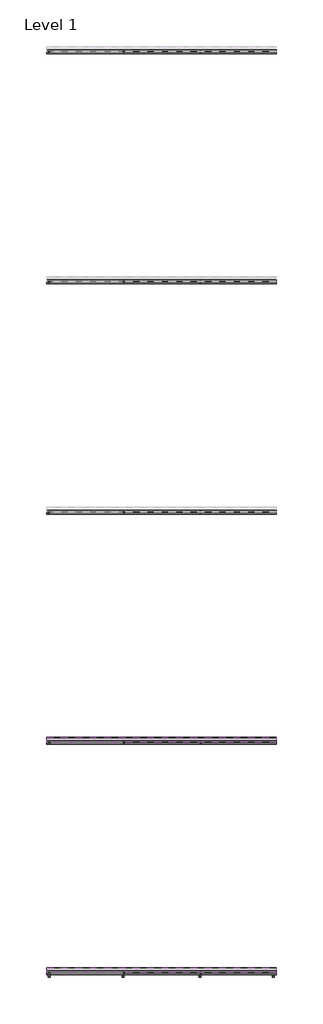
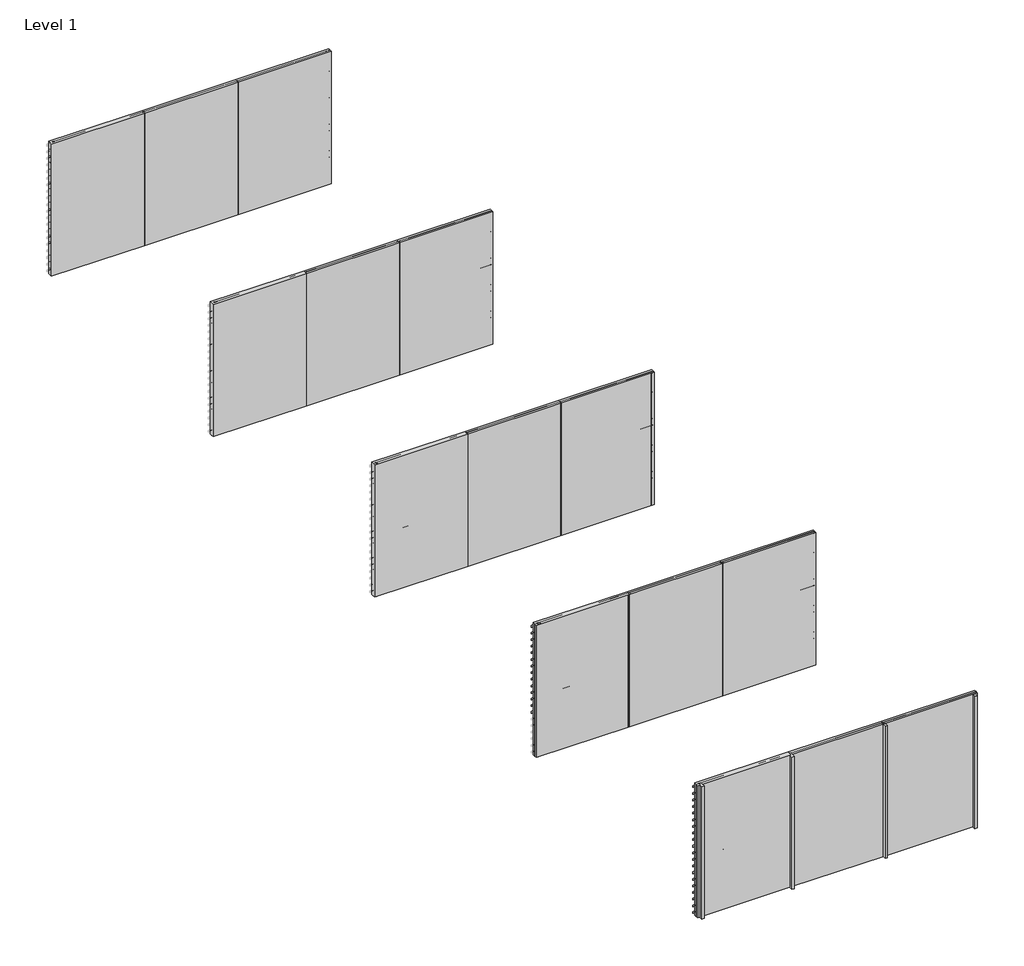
# One storey, part 1 of 2: 34 proxies, 20 members, 20 plates.
"""IFC4 building model written with IfcOpenShell, lengths in millimetres."""

import ifcopenshell
import ifcopenshell.guid

model = None  # the IFC model being written
_history = None  # IfcOwnerHistory: only IFC2X3 demands one
_inside = {}  # id of a spatial element -> (the spatial element, [elements in it])
_under = {}  # id of a project, library or spatial element -> (it, [spatial elements below it])
_declared = {}  # id of a project -> (the project, [libraries it declares])
_typed = {}  # id of a type object -> (the type object, [elements of that type])
_made_of = {}  # id of a material, layer set ... -> (it, [elements and type objects made of it])


def new_model(schema):
    """Start an empty IFC model of exactly this schema.

    Asked for "IFC4X3", IfcOpenShell would pick the latest addendum, in which some entities
    have other attributes; the version numbers below select the first issue.
    IFC2X3 requires an IfcOwnerHistory on every rooted entity: one is made here for all.
    """
    global model, _history
    if schema == "IFC4X3":
        model = ifcopenshell.file(schema_version=(4, 3, 0, 0))
    else:
        model = ifcopenshell.file(schema=schema)
    _inside.clear()
    _under.clear()
    _declared.clear()
    _typed.clear()
    _made_of.clear()
    _history = None
    if model.schema == "IFC2X3":
        org = make("IfcOrganization", Name="unknown")
        user = make(
            "IfcPersonAndOrganization",
            ThePerson=make("IfcPerson", FamilyName="unknown"),
            TheOrganization=org,
        )
        app = make(
            "IfcApplication",
            ApplicationDeveloper=org,
            Version="unknown",
            ApplicationFullName="unknown",
            ApplicationIdentifier="unknown",
        )
        _history = make(
            "IfcOwnerHistory",
            OwningUser=user,
            OwningApplication=app,
            ChangeAction="ADDED",
            CreationDate=0,
        )
    return model


def make(cls, **values):
    """One entity of the class cls with the attributes given. An attribute that is None is left unset."""
    return model.create_entity(
        cls, **{name: value for name, value in values.items() if value is not None}
    )


def rooted(cls, **values):
    """An entity with a GlobalId (a new one), such as an element, a storey or a relation."""
    return make(cls, GlobalId=ifcopenshell.guid.new(), OwnerHistory=_history, **values)


def si_unit(unit_type, name, prefix=None):
    """IfcSIUnit, for example si_unit("LENGTHUNIT", "METRE", prefix="MILLI")."""
    return make("IfcSIUnit", UnitType=unit_type, Prefix=prefix, Name=name)


def assignment(units):
    """IfcUnitAssignment: the units of a project."""
    return None if units is None else make("IfcUnitAssignment", Units=units)


def point(xyz):
    """IfcCartesianPoint."""
    return None if xyz is None else make("IfcCartesianPoint", Coordinates=xyz)


def direction(xyz):
    """IfcDirection."""
    return None if xyz is None else make("IfcDirection", DirectionRatios=xyz)


def frame(location, z_axis=None, x_axis=None):
    """IfcAxis2Placement3D, a coordinate frame: its origin and axes. An axis left out is left unset."""
    return make(
        "IfcAxis2Placement3D",
        Location=point(location),
        Axis=direction(z_axis),
        RefDirection=direction(x_axis),
    )


def origin():
    """The frame at (0, 0, 0) with its axes left unset."""
    return frame((0.0, 0.0, 0.0))


def origin_with_axes():
    """The frame at (0, 0, 0) with the z axis (0, 0, 1) and the x axis (1, 0, 0) written out."""
    return frame((0.0, 0.0, 0.0), z_axis=(0.0, 0.0, 1.0), x_axis=(1.0, 0.0, 0.0))


def place(relative_to, where):
    """IfcLocalPlacement: puts the frame where relative to a parent placement (None: the world)."""
    return make(
        "IfcLocalPlacement", PlacementRelTo=relative_to, RelativePlacement=where
    )


def context(
    kind, dimensions, precision=None, world=None, true_north=None, identifier=None
):
    """IfcGeometricRepresentationContext, for example the 3D "Model" context."""
    return make(
        "IfcGeometricRepresentationContext",
        ContextIdentifier=identifier,
        ContextType=kind,
        CoordinateSpaceDimension=dimensions,
        Precision=precision,
        WorldCoordinateSystem=world,
        TrueNorth=true_north,
    )


def project(units=None, contexts=None):
    """IfcProject with its units and contexts."""
    return rooted(
        "IfcProject",
        Name="project",
        RepresentationContexts=contexts,
        UnitsInContext=assignment(units),
    )


def spatial(cls, under=None, at=None, **own):
    """A site, building, storey or space (cls), placed at a placement, below another one or the project."""
    s = rooted(cls, ObjectPlacement=at, **own)
    if under is not None:
        _under.setdefault(under.id(), (under, []))[1].append(s)
    return s


def polyline(points):
    """IfcPolyline through the points."""
    return make("IfcPolyline", Points=[point(p) for p in points])


def outline(outer, holes=None, kind="AREA"):
    """IfcArbitraryClosedProfileDef: a profile drawn as a closed curve; with holes, ...WithVoids."""
    if holes is None:
        return make("IfcArbitraryClosedProfileDef", ProfileType=kind, OuterCurve=outer)
    return make(
        "IfcArbitraryProfileDefWithVoids",
        ProfileType=kind,
        OuterCurve=outer,
        InnerCurves=holes,
    )


def extrude(swept, where, along, depth):
    """IfcExtrudedAreaSolid: the profile swept, set in the frame where, extruded along a direction by depth."""
    return make(
        "IfcExtrudedAreaSolid",
        SweptArea=swept,
        Position=where,
        ExtrudedDirection=direction(along),
        Depth=depth,
    )


def shape(context_of_items, identifier, shape_type, items):
    """IfcShapeRepresentation: the items that make up one representation, for example the "Body"."""
    return make(
        "IfcShapeRepresentation",
        ContextOfItems=context_of_items,
        RepresentationIdentifier=identifier,
        RepresentationType=shape_type,
        Items=items,
    )


def source(mapping_origin, context_of_items, identifier, shape_type, items):
    """IfcRepresentationMap: a shape defined once, which mapped items show again and again."""
    return make(
        "IfcRepresentationMap",
        MappingOrigin=mapping_origin,
        MappedRepresentation=shape(context_of_items, identifier, shape_type, items),
    )


def transform(
    local_origin,
    x_axis=None,
    y_axis=None,
    z_axis=None,
    scale=None,
    scale2=None,
    scale3=None,
    uniform=True,
):
    """IfcCartesianTransformationOperator3D, or its non-uniform kind. x_axis, y_axis, z_axis: its Axis1, 2, 3."""
    if uniform:
        return make(
            "IfcCartesianTransformationOperator3D",
            Axis1=direction(x_axis),
            Axis2=direction(y_axis),
            LocalOrigin=point(local_origin),
            Scale=scale,
            Axis3=direction(z_axis),
        )
    return make(
        "IfcCartesianTransformationOperator3DnonUniform",
        Axis1=direction(x_axis),
        Axis2=direction(y_axis),
        LocalOrigin=point(local_origin),
        Scale=scale,
        Axis3=direction(z_axis),
        Scale2=scale2,
        Scale3=scale3,
    )


def mapped(mapping_source, mapping_target):
    """IfcMappedItem: shows the shape of a source again, moved by a transform."""
    return make(
        "IfcMappedItem", MappingSource=mapping_source, MappingTarget=mapping_target
    )


def made_of(thing, what):
    """Note that an element or type object is made of a material, layer set ...; save() writes the relation."""
    if what is not None:
        _made_of.setdefault(what.id(), (what, []))[1].append(thing)
    return thing


def element(
    cls,
    number,
    at=None,
    inside=None,
    cuts=None,
    type_object=None,
    material=None,
    context=None,
    identifier="Body",
    shape_type=None,
    held_by="IfcProductDefinitionShape",
    body=None,
    shapes=None,
    **own,
):
    """One element of the class cls, such as IfcWall. Its Tag is "e" and its number.

    at: its placement. inside: the storey or other place that contains it. cuts: it is an
    opening in that element (IfcRelVoidsElement). A single representation is given by context,
    identifier, shape_type and body (its items); several are given by shapes. held_by: the class
    of the entity that holds the representations. save() writes the other relations.
    """
    e = rooted(cls, Tag="e%d" % number, ObjectPlacement=at, **own)
    if body is not None:
        shapes = [shape(context, identifier, shape_type, body)]
    if shapes is not None:
        e.Representation = make(held_by, Representations=shapes)
    if inside is not None:
        _inside.setdefault(inside.id(), (inside, []))[1].append(e)
    if cuts is not None:
        rooted(
            "IfcRelVoidsElement", RelatingBuildingElement=cuts, RelatedOpeningElement=e
        )
    if type_object is not None:
        _typed.setdefault(type_object.id(), (type_object, []))[1].append(e)
    return made_of(e, material)


def aggregate(whole, parts):
    """IfcRelAggregates: a whole, such as a stair, and the parts it consists of."""
    return rooted("IfcRelAggregates", RelatingObject=whole, RelatedObjects=parts)


def save(model, path):
    """Write the relations noted so far, then the file.

    IfcRelAggregates (storeys below a building ...), IfcRelContainedInSpatialStructure (elements
    in a storey), IfcRelDefinesByType, IfcRelAssociatesMaterial and IfcRelDeclares: one each for
    every whole, place, type object, material and project.
    """
    for whole, parts in _under.values():
        aggregate(whole, parts)
    for where, things in _inside.values():
        rooted(
            "IfcRelContainedInSpatialStructure",
            RelatedElements=things,
            RelatingStructure=where,
        )
    for kind, things in _typed.values():
        rooted("IfcRelDefinesByType", RelatedObjects=things, RelatingType=kind)
    for what, things in _made_of.values():
        rooted("IfcRelAssociatesMaterial", RelatedObjects=things, RelatingMaterial=what)
    for by, libraries in _declared.values():
        rooted("IfcRelDeclares", RelatingContext=by, RelatedDefinitions=libraries)
    model.write(path)


def rectangular_mullion_07ce7cd6(model_context):
    return source(origin(), model_context, "Body", "SweptSolid", [
        extrude(outline(polyline([(-50.0, 1.0), (-50.0, -11.0), (-80.0, -11.0), (-80.0, 1.0), (-50.0, 1.0)])), frame((0.0, 0.0, -3000.0), z_axis=(0.0, 0.0, 1.0), x_axis=(1.0, 0.0, 0.0)), (0.0, 0.0, 1.0), 3000.0),
    ])


def rectangular_mullion_a32b29a9(model_context):
    return source(origin(), model_context, "Body", "SweptSolid", [
        extrude(outline(polyline([(-80.0, 1.0), (-50.0, 1.0), (-50.0, -11.0), (-80.0, -11.0), (-80.0, 1.0)])), frame((0.0, 0.0, -3000.0), z_axis=(0.0, 0.0, 1.0), x_axis=(1.0, 0.0, 0.0)), (0.0, 0.0, 1.0), 3000.0),
    ])


def rectangular_mullion_bbbcbd30(model_context):
    return source(origin(), model_context, "Body", "SweptSolid", [
        extrude(outline(polyline([(-50.0, 1.0), (-50.0, -11.0), (-100.0, -11.0), (-100.0, 1.0), (-50.0, 1.0)])), frame((0.0, 0.0, -3000.0), z_axis=(0.0, 0.0, 1.0), x_axis=(1.0, 0.0, 0.0)), (0.0, 0.0, 1.0), 3000.0),
    ])


def rectangular_mullion_f8d4a220(model_context):
    return source(origin(), model_context, "Body", "SweptSolid", [
        extrude(outline(polyline([(-100.0, 1.0), (-50.0, 1.0), (-50.0, -11.0), (-100.0, -11.0), (-100.0, 1.0)])), frame((0.0, 0.0, -3000.0), z_axis=(0.0, 0.0, 1.0), x_axis=(1.0, 0.0, 0.0)), (0.0, 0.0, 1.0), 3000.0),
    ])


def rectangular_mullion_81aaf6fe(model_context):
    return source(origin(), model_context, "Body", "SweptSolid", [
        extrude(outline(polyline([(-50.0, 1.0), (-50.0, -49.0), (-71.0, -49.0), (-71.0, 1.0), (-50.0, 1.0)])), frame((0.0, 0.0, -3000.0), z_axis=(0.0, 0.0, 1.0), x_axis=(1.0, 0.0, 0.0)), (0.0, 0.0, 1.0), 3000.0),
    ])


def rectangular_mullion_6e08dc26(model_context):
    return source(origin(), model_context, "Body", "SweptSolid", [
        extrude(outline(polyline([(-71.0, 1.0), (-50.0, 1.0), (-50.0, -49.0), (-71.0, -49.0), (-71.0, 1.0)])), frame((0.0, 0.0, -3000.0), z_axis=(0.0, 0.0, 1.0), x_axis=(1.0, 0.0, 0.0)), (0.0, 0.0, 1.0), 3000.0),
    ])


def rectangular_mullion_75c52e10(model_context):
    return source(origin(), model_context, "Body", "SweptSolid", [
        extrude(outline(polyline([(-50.0, 1.0), (-50.0, -49.0), (-100.0, -49.0), (-100.0, 1.0), (-50.0, 1.0)])), frame((0.0, 0.0, -3000.0), z_axis=(0.0, 0.0, 1.0), x_axis=(1.0, 0.0, 0.0)), (0.0, 0.0, 1.0), 3000.0),
    ])


def rectangular_mullion_40295cf1(model_context):
    return source(origin(), model_context, "Body", "SweptSolid", [
        extrude(outline(polyline([(-100.0, 1.0), (-50.0, 1.0), (-50.0, -49.0), (-100.0, -49.0), (-100.0, 1.0)])), frame((0.0, 0.0, -3000.0), z_axis=(0.0, 0.0, 1.0), x_axis=(1.0, 0.0, 0.0)), (0.0, 0.0, 1.0), 3000.0),
    ])


def rectangular_mullion_8b624eba(model_context):
    return source(origin(), model_context, "Body", "SweptSolid", [
        extrude(outline(polyline([(15.0, 1.0), (15.0, -11.0), (-15.0, -11.0), (-15.0, 1.0), (15.0, 1.0)])), frame((0.0, 0.0, -3000.0), z_axis=(0.0, 0.0, 1.0), x_axis=(1.0, 0.0, 0.0)), (0.0, 0.0, 1.0), 3000.0),
    ])


def rectangular_mullion_7f158cb3(model_context):
    return source(origin(), model_context, "Body", "SweptSolid", [
        extrude(outline(polyline([(25.0, 1.0), (25.0, -11.0), (-25.0, -11.0), (-25.0, 1.0), (25.0, 1.0)])), frame((0.0, 0.0, -3000.0), z_axis=(0.0, 0.0, 1.0), x_axis=(1.0, 0.0, 0.0)), (0.0, 0.0, 1.0), 3000.0),
    ])


def rectangular_mullion_66519e13(model_context):
    return source(origin(), model_context, "Body", "SweptSolid", [
        extrude(outline(polyline([(10.5, 1.0), (10.5, -49.0), (-10.5, -49.0), (-10.5, 1.0), (10.5, 1.0)])), frame((0.0, 0.0, -3000.0), z_axis=(0.0, 0.0, 1.0), x_axis=(1.0, 0.0, 0.0)), (0.0, 0.0, 1.0), 3000.0),
    ])


def rectangular_mullion_5829b51c(model_context):
    return source(origin(), model_context, "Body", "SweptSolid", [
        extrude(outline(polyline([(25.0, 1.0), (25.0, -49.0), (-25.0, -49.0), (-25.0, 1.0), (25.0, 1.0)])), frame((0.0, 0.0, -3000.0), z_axis=(0.0, 0.0, 1.0), x_axis=(1.0, 0.0, 0.0)), (0.0, 0.0, 1.0), 3000.0),
    ])


def rectangular_mullion_16d87653(model_context):
    return source(origin(), model_context, "Body", "SweptSolid", [
        extrude(outline(polyline([(25.0, 1.0), (25.0, -124.0), (-25.0, -124.0), (-25.0, 1.0), (25.0, 1.0)])), frame((0.0, 0.0, -3000.0), z_axis=(0.0, 0.0, 1.0), x_axis=(1.0, 0.0, 0.0)), (0.0, 0.0, 1.0), 3000.0),
    ])


def rectangular_mullion_6cfc0fe8(model_context):
    return source(origin(), model_context, "Body", "SweptSolid", [
        extrude(outline(polyline([(-50.0, 1.0), (-50.0, -124.0), (-100.0, -124.0), (-100.0, 1.0), (-50.0, 1.0)])), frame((0.0, 0.0, -3000.0), z_axis=(0.0, 0.0, 1.0), x_axis=(1.0, 0.0, 0.0)), (0.0, 0.0, 1.0), 3000.0),
    ])


def rectangular_mullion_5af3f62c(model_context):
    return source(origin(), model_context, "Body", "SweptSolid", [
        extrude(outline(polyline([(-100.0, 1.0), (-50.0, 1.0), (-50.0, -124.0), (-100.0, -124.0), (-100.0, 1.0)])), frame((0.0, 0.0, -3000.0), z_axis=(0.0, 0.0, 1.0), x_axis=(1.0, 0.0, 0.0)), (0.0, 0.0, 1.0), 3000.0),
    ])


def empty_system_panel_empty_24b1c33f(model_context):
    return source(origin(), model_context, "Body", "SweptSolid", [
        extrude(outline(polyline([(1000.0, -50.0), (-1000.0, -50.0), (-1000.0, 50.0), (1000.0, 50.0), (1000.0, -50.0)])), origin_with_axes(), (0.0, 0.0, 1.0), 3000.0),
    ])


model = new_model("IFC4")

# Units and contexts
model_context = context("Model", 3, world=origin())
ifc_project = project(units=[si_unit("LENGTHUNIT", "METRE", prefix="MILLI")], contexts=[model_context])

# Site, building, storey
site = spatial("IfcSite", under=ifc_project)
building = spatial("IfcBuilding", under=site)
storey = spatial("IfcBuildingStorey", under=building, Name="Level 1", Elevation=0.0)

# Proxies
placement = place(None, origin())
element("IfcBuildingElementProxy", 1, Name="Wall Sweeps", at=placement, inside=storey, context=model_context, shape_type="SweptSolid", body=[
    extrude(outline(polyline([(-19995.0, 3000.0), (-19995.0, 2998.0), (-19867.0, 2880.0), (-19867.0, 2845.0), (-19997.0, 2964.84375), (-19997.0, 3000.0), (-19995.0, 3000.0)])), frame((0.0, 0.0, 0.0), z_axis=(1.0, 0.0, 0.0), x_axis=(0.0, 1.0, 0.0)), (0.0, 0.0, 1.0), 6000.0),
])
element("IfcBuildingElementProxy", 2, Name="Wall Sweeps", at=placement, inside=storey, context=model_context, shape_type="SweptSolid", body=[
    extrude(outline(polyline([(-19995.0, 2850.0), (-19995.0, 2848.0), (-19867.0, 2730.0), (-19867.0, 2695.0), (-19997.0, 2814.84375), (-19997.0, 2850.0), (-19995.0, 2850.0)])), frame((0.0, 0.0, 0.0), z_axis=(1.0, 0.0, 0.0), x_axis=(0.0, 1.0, 0.0)), (0.0, 0.0, 1.0), 6000.0),
])
element("IfcBuildingElementProxy", 3, Name="Wall Sweeps", at=placement, inside=storey, context=model_context, shape_type="SweptSolid", body=[
    extrude(outline(polyline([(-19995.0, 2700.0), (-19995.0, 2698.0), (-19867.0, 2580.0), (-19867.0, 2545.0), (-19997.0, 2664.84375), (-19997.0, 2700.0), (-19995.0, 2700.0)])), frame((0.0, 0.0, 0.0), z_axis=(1.0, 0.0, 0.0), x_axis=(0.0, 1.0, 0.0)), (0.0, 0.0, 1.0), 6000.0),
])
element("IfcBuildingElementProxy", 4, Name="Wall Sweeps", at=placement, inside=storey, context=model_context, shape_type="SweptSolid", body=[
    extrude(outline(polyline([(-19995.0, 2550.0), (-19995.0, 2548.0), (-19867.0, 2430.0), (-19867.0, 2395.0), (-19997.0, 2514.84375), (-19997.0, 2550.0), (-19995.0, 2550.0)])), frame((0.0, 0.0, 0.0), z_axis=(1.0, 0.0, 0.0), x_axis=(0.0, 1.0, 0.0)), (0.0, 0.0, 1.0), 6000.0),
])
element("IfcBuildingElementProxy", 5, Name="Wall Sweeps", at=placement, inside=storey, context=model_context, shape_type="SweptSolid", body=[
    extrude(outline(polyline([(-19995.0, 2400.0), (-19995.0, 2398.0), (-19867.0, 2280.0), (-19867.0, 2245.0), (-19997.0, 2364.84375), (-19997.0, 2400.0), (-19995.0, 2400.0)])), frame((0.0, 0.0, 0.0), z_axis=(1.0, 0.0, 0.0), x_axis=(0.0, 1.0, 0.0)), (0.0, 0.0, 1.0), 6000.0),
])
element("IfcBuildingElementProxy", 6, Name="Wall Sweeps", at=placement, inside=storey, context=model_context, shape_type="SweptSolid", body=[
    extrude(outline(polyline([(-19995.0, 2250.0), (-19995.0, 2248.0), (-19867.0, 2130.0), (-19867.0, 2095.0), (-19997.0, 2214.84375), (-19997.0, 2250.0), (-19995.0, 2250.0)])), frame((0.0, 0.0, 0.0), z_axis=(1.0, 0.0, 0.0), x_axis=(0.0, 1.0, 0.0)), (0.0, 0.0, 1.0), 6000.0),
])
element("IfcBuildingElementProxy", 7, Name="Wall Sweeps", at=placement, inside=storey, context=model_context, shape_type="SweptSolid", body=[
    extrude(outline(polyline([(-19995.0, 2100.0), (-19995.0, 2098.0), (-19867.0, 1980.0), (-19867.0, 1945.0), (-19997.0, 2064.84375), (-19997.0, 2100.0), (-19995.0, 2100.0)])), frame((0.0, 0.0, 0.0), z_axis=(1.0, 0.0, 0.0), x_axis=(0.0, 1.0, 0.0)), (0.0, 0.0, 1.0), 6000.0),
])
element("IfcBuildingElementProxy", 8, Name="Wall Sweeps", at=placement, inside=storey, context=model_context, shape_type="SweptSolid", body=[
    extrude(outline(polyline([(-19995.0, 1950.0), (-19995.0, 1948.0), (-19867.0, 1830.0), (-19867.0, 1795.0), (-19997.0, 1914.84375), (-19997.0, 1950.0), (-19995.0, 1950.0)])), frame((0.0, 0.0, 0.0), z_axis=(1.0, 0.0, 0.0), x_axis=(0.0, 1.0, 0.0)), (0.0, 0.0, 1.0), 6000.0),
])
element("IfcBuildingElementProxy", 9, Name="Wall Sweeps", at=placement, inside=storey, context=model_context, shape_type="SweptSolid", body=[
    extrude(outline(polyline([(-19995.0, 1800.0), (-19995.0, 1798.0), (-19867.0, 1680.0), (-19867.0, 1645.0), (-19997.0, 1764.84375), (-19997.0, 1800.0), (-19995.0, 1800.0)])), frame((0.0, 0.0, 0.0), z_axis=(1.0, 0.0, 0.0), x_axis=(0.0, 1.0, 0.0)), (0.0, 0.0, 1.0), 6000.0),
])
element("IfcBuildingElementProxy", 10, Name="Wall Sweeps", at=placement, inside=storey, context=model_context, shape_type="SweptSolid", body=[
    extrude(outline(polyline([(-19995.0, 1650.0), (-19995.0, 1648.0), (-19867.0, 1530.0), (-19867.0, 1495.0), (-19997.0, 1614.84375), (-19997.0, 1650.0), (-19995.0, 1650.0)])), frame((0.0, 0.0, 0.0), z_axis=(1.0, 0.0, 0.0), x_axis=(0.0, 1.0, 0.0)), (0.0, 0.0, 1.0), 6000.0),
])
element("IfcBuildingElementProxy", 11, Name="Wall Sweeps", at=placement, inside=storey, context=model_context, shape_type="SweptSolid", body=[
    extrude(outline(polyline([(-19995.0, 1500.0), (-19995.0, 1498.0), (-19867.0, 1380.0), (-19867.0, 1345.0), (-19997.0, 1464.84375), (-19997.0, 1500.0), (-19995.0, 1500.0)])), frame((0.0, 0.0, 0.0), z_axis=(1.0, 0.0, 0.0), x_axis=(0.0, 1.0, 0.0)), (0.0, 0.0, 1.0), 6000.0),
])
element("IfcBuildingElementProxy", 12, Name="Wall Sweeps", at=placement, inside=storey, context=model_context, shape_type="SweptSolid", body=[
    extrude(outline(polyline([(-19995.0, 1350.0), (-19995.0, 1348.0), (-19867.0, 1230.0), (-19867.0, 1195.0), (-19997.0, 1314.84375), (-19997.0, 1350.0), (-19995.0, 1350.0)])), frame((0.0, 0.0, 0.0), z_axis=(1.0, 0.0, 0.0), x_axis=(0.0, 1.0, 0.0)), (0.0, 0.0, 1.0), 6000.0),
])
element("IfcBuildingElementProxy", 13, Name="Wall Sweeps", at=placement, inside=storey, context=model_context, shape_type="SweptSolid", body=[
    extrude(outline(polyline([(-19995.0, 1200.0), (-19995.0, 1198.0), (-19867.0, 1080.0), (-19867.0, 1045.0), (-19997.0, 1164.84375), (-19997.0, 1200.0), (-19995.0, 1200.0)])), frame((0.0, 0.0, 0.0), z_axis=(1.0, 0.0, 0.0), x_axis=(0.0, 1.0, 0.0)), (0.0, 0.0, 1.0), 6000.0),
])
element("IfcBuildingElementProxy", 14, Name="Wall Sweeps", at=placement, inside=storey, context=model_context, shape_type="SweptSolid", body=[
    extrude(outline(polyline([(-19995.0, 1050.0), (-19995.0, 1048.0), (-19867.0, 930.0), (-19867.0, 895.0), (-19997.0, 1014.84375), (-19997.0, 1050.0), (-19995.0, 1050.0)])), frame((0.0, 0.0, 0.0), z_axis=(1.0, 0.0, 0.0), x_axis=(0.0, 1.0, 0.0)), (0.0, 0.0, 1.0), 6000.0),
])
element("IfcBuildingElementProxy", 15, Name="Wall Sweeps", at=placement, inside=storey, context=model_context, shape_type="SweptSolid", body=[
    extrude(outline(polyline([(-25995.0, 3000.0), (-25995.0, 2998.0), (-25867.0, 2880.0), (-25867.0, 2845.0), (-25997.0, 2964.84375), (-25997.0, 3000.0), (-25995.0, 3000.0)])), frame((0.0, 0.0, 0.0), z_axis=(1.0, 0.0, 0.0), x_axis=(0.0, 1.0, 0.0)), (0.0, 0.0, 1.0), 6000.0),
])
element("IfcBuildingElementProxy", 16, Name="Wall Sweeps", at=placement, inside=storey, context=model_context, shape_type="SweptSolid", body=[
    extrude(outline(polyline([(-25995.0, 2850.0), (-25995.0, 2848.0), (-25867.0, 2730.0), (-25867.0, 2695.0), (-25997.0, 2814.84375), (-25997.0, 2850.0), (-25995.0, 2850.0)])), frame((0.0, 0.0, 0.0), z_axis=(1.0, 0.0, 0.0), x_axis=(0.0, 1.0, 0.0)), (0.0, 0.0, 1.0), 6000.0),
])
element("IfcBuildingElementProxy", 17, Name="Wall Sweeps", at=placement, inside=storey, context=model_context, shape_type="SweptSolid", body=[
    extrude(outline(polyline([(-25995.0, 2700.0), (-25995.0, 2698.0), (-25867.0, 2580.0), (-25867.0, 2545.0), (-25997.0, 2664.84375), (-25997.0, 2700.0), (-25995.0, 2700.0)])), frame((0.0, 0.0, 0.0), z_axis=(1.0, 0.0, 0.0), x_axis=(0.0, 1.0, 0.0)), (0.0, 0.0, 1.0), 6000.0),
])
element("IfcBuildingElementProxy", 18, Name="Wall Sweeps", at=placement, inside=storey, context=model_context, shape_type="SweptSolid", body=[
    extrude(outline(polyline([(-25995.0, 2550.0), (-25995.0, 2548.0), (-25867.0, 2430.0), (-25867.0, 2395.0), (-25997.0, 2514.84375), (-25997.0, 2550.0), (-25995.0, 2550.0)])), frame((0.0, 0.0, 0.0), z_axis=(1.0, 0.0, 0.0), x_axis=(0.0, 1.0, 0.0)), (0.0, 0.0, 1.0), 6000.0),
])
element("IfcBuildingElementProxy", 19, Name="Wall Sweeps", at=placement, inside=storey, context=model_context, shape_type="SweptSolid", body=[
    extrude(outline(polyline([(-25995.0, 2400.0), (-25995.0, 2398.0), (-25867.0, 2280.0), (-25867.0, 2245.0), (-25997.0, 2364.84375), (-25997.0, 2400.0), (-25995.0, 2400.0)])), frame((0.0, 0.0, 0.0), z_axis=(1.0, 0.0, 0.0), x_axis=(0.0, 1.0, 0.0)), (0.0, 0.0, 1.0), 6000.0),
])
element("IfcBuildingElementProxy", 20, Name="Wall Sweeps", at=placement, inside=storey, context=model_context, shape_type="SweptSolid", body=[
    extrude(outline(polyline([(-25995.0, 2250.0), (-25995.0, 2248.0), (-25867.0, 2130.0), (-25867.0, 2095.0), (-25997.0, 2214.84375), (-25997.0, 2250.0), (-25995.0, 2250.0)])), frame((0.0, 0.0, 0.0), z_axis=(1.0, 0.0, 0.0), x_axis=(0.0, 1.0, 0.0)), (0.0, 0.0, 1.0), 6000.0),
])
element("IfcBuildingElementProxy", 21, Name="Wall Sweeps", at=placement, inside=storey, context=model_context, shape_type="SweptSolid", body=[
    extrude(outline(polyline([(-25995.0, 2100.0), (-25995.0, 2098.0), (-25867.0, 1980.0), (-25867.0, 1945.0), (-25997.0, 2064.84375), (-25997.0, 2100.0), (-25995.0, 2100.0)])), frame((0.0, 0.0, 0.0), z_axis=(1.0, 0.0, 0.0), x_axis=(0.0, 1.0, 0.0)), (0.0, 0.0, 1.0), 6000.0),
])
element("IfcBuildingElementProxy", 22, Name="Wall Sweeps", at=placement, inside=storey, context=model_context, shape_type="SweptSolid", body=[
    extrude(outline(polyline([(-25995.0, 1950.0), (-25995.0, 1948.0), (-25867.0, 1830.0), (-25867.0, 1795.0), (-25997.0, 1914.84375), (-25997.0, 1950.0), (-25995.0, 1950.0)])), frame((0.0, 0.0, 0.0), z_axis=(1.0, 0.0, 0.0), x_axis=(0.0, 1.0, 0.0)), (0.0, 0.0, 1.0), 6000.0),
])
element("IfcBuildingElementProxy", 23, Name="Wall Sweeps", at=placement, inside=storey, context=model_context, shape_type="SweptSolid", body=[
    extrude(outline(polyline([(-25995.0, 1800.0), (-25995.0, 1798.0), (-25867.0, 1680.0), (-25867.0, 1645.0), (-25997.0, 1764.84375), (-25997.0, 1800.0), (-25995.0, 1800.0)])), frame((0.0, 0.0, 0.0), z_axis=(1.0, 0.0, 0.0), x_axis=(0.0, 1.0, 0.0)), (0.0, 0.0, 1.0), 6000.0),
])
element("IfcBuildingElementProxy", 24, Name="Wall Sweeps", at=placement, inside=storey, context=model_context, shape_type="SweptSolid", body=[
    extrude(outline(polyline([(-25995.0, 1650.0), (-25995.0, 1648.0), (-25867.0, 1530.0), (-25867.0, 1495.0), (-25997.0, 1614.84375), (-25997.0, 1650.0), (-25995.0, 1650.0)])), frame((0.0, 0.0, 0.0), z_axis=(1.0, 0.0, 0.0), x_axis=(0.0, 1.0, 0.0)), (0.0, 0.0, 1.0), 6000.0),
])
element("IfcBuildingElementProxy", 25, Name="Wall Sweeps", at=placement, inside=storey, context=model_context, shape_type="SweptSolid", body=[
    extrude(outline(polyline([(-25995.0, 1500.0), (-25995.0, 1498.0), (-25867.0, 1380.0), (-25867.0, 1345.0), (-25997.0, 1464.84375), (-25997.0, 1500.0), (-25995.0, 1500.0)])), frame((0.0, 0.0, 0.0), z_axis=(1.0, 0.0, 0.0), x_axis=(0.0, 1.0, 0.0)), (0.0, 0.0, 1.0), 6000.0),
])
element("IfcBuildingElementProxy", 26, Name="Wall Sweeps", at=placement, inside=storey, context=model_context, shape_type="SweptSolid", body=[
    extrude(outline(polyline([(-25995.0, 1350.0), (-25995.0, 1348.0), (-25867.0, 1230.0), (-25867.0, 1195.0), (-25997.0, 1314.84375), (-25997.0, 1350.0), (-25995.0, 1350.0)])), frame((0.0, 0.0, 0.0), z_axis=(1.0, 0.0, 0.0), x_axis=(0.0, 1.0, 0.0)), (0.0, 0.0, 1.0), 6000.0),
])
element("IfcBuildingElementProxy", 27, Name="Wall Sweeps", at=placement, inside=storey, context=model_context, shape_type="SweptSolid", body=[
    extrude(outline(polyline([(-25995.0, 1200.0), (-25995.0, 1198.0), (-25867.0, 1080.0), (-25867.0, 1045.0), (-25997.0, 1164.84375), (-25997.0, 1200.0), (-25995.0, 1200.0)])), frame((0.0, 0.0, 0.0), z_axis=(1.0, 0.0, 0.0), x_axis=(0.0, 1.0, 0.0)), (0.0, 0.0, 1.0), 6000.0),
])
element("IfcBuildingElementProxy", 28, Name="Wall Sweeps", at=placement, inside=storey, context=model_context, shape_type="SweptSolid", body=[
    extrude(outline(polyline([(-25995.0, 1050.0), (-25995.0, 1048.0), (-25867.0, 930.0), (-25867.0, 895.0), (-25997.0, 1014.84375), (-25997.0, 1050.0), (-25995.0, 1050.0)])), frame((0.0, 0.0, 0.0), z_axis=(1.0, 0.0, 0.0), x_axis=(0.0, 1.0, 0.0)), (0.0, 0.0, 1.0), 6000.0),
])
element("IfcBuildingElementProxy", 29, Name="Wall Sweeps", at=placement, inside=storey, context=model_context, shape_type="SweptSolid", body=[
    extrude(outline(polyline([(-25995.0, 900.0), (-25995.0, 898.0), (-25867.0, 780.0), (-25867.0, 745.0), (-25997.0, 864.84375), (-25997.0, 900.0), (-25995.0, 900.0)])), frame((0.0, 0.0, 0.0), z_axis=(1.0, 0.0, 0.0), x_axis=(0.0, 1.0, 0.0)), (0.0, 0.0, 1.0), 6000.0),
])
element("IfcBuildingElementProxy", 30, Name="Wall Sweeps", at=placement, inside=storey, context=model_context, shape_type="SweptSolid", body=[
    extrude(outline(polyline([(-25995.0, 750.0), (-25995.0, 748.0), (-25867.0, 630.0), (-25867.0, 595.0), (-25997.0, 714.84375), (-25997.0, 750.0), (-25995.0, 750.0)])), frame((0.0, 0.0, 0.0), z_axis=(1.0, 0.0, 0.0), x_axis=(0.0, 1.0, 0.0)), (0.0, 0.0, 1.0), 6000.0),
])
element("IfcBuildingElementProxy", 31, Name="Wall Sweeps", at=placement, inside=storey, context=model_context, shape_type="SweptSolid", body=[
    extrude(outline(polyline([(-25995.0, 600.0), (-25995.0, 598.0), (-25867.0, 480.0), (-25867.0, 445.0), (-25997.0, 564.84375), (-25997.0, 600.0), (-25995.0, 600.0)])), frame((0.0, 0.0, 0.0), z_axis=(1.0, 0.0, 0.0), x_axis=(0.0, 1.0, 0.0)), (0.0, 0.0, 1.0), 6000.0),
])
element("IfcBuildingElementProxy", 32, Name="Wall Sweeps", at=placement, inside=storey, context=model_context, shape_type="SweptSolid", body=[
    extrude(outline(polyline([(-25995.0, 450.0), (-25995.0, 448.0), (-25867.0, 330.0), (-25867.0, 295.0), (-25997.0, 414.84375), (-25997.0, 450.0), (-25995.0, 450.0)])), frame((0.0, 0.0, 0.0), z_axis=(1.0, 0.0, 0.0), x_axis=(0.0, 1.0, 0.0)), (0.0, 0.0, 1.0), 6000.0),
])
element("IfcBuildingElementProxy", 33, Name="Wall Sweeps", at=placement, inside=storey, context=model_context, shape_type="SweptSolid", body=[
    extrude(outline(polyline([(-25995.0, 300.0), (-25995.0, 298.0), (-25867.0, 180.0), (-25867.0, 145.0), (-25997.0, 264.84375), (-25997.0, 300.0), (-25995.0, 300.0)])), frame((0.0, 0.0, 0.0), z_axis=(1.0, 0.0, 0.0), x_axis=(0.0, 1.0, 0.0)), (0.0, 0.0, 1.0), 6000.0),
])
element("IfcBuildingElementProxy", 34, Name="Wall Sweeps", at=placement, inside=storey, context=model_context, shape_type="SweptSolid", body=[
    extrude(outline(polyline([(-25995.0, 150.0), (-25995.0, 148.0), (-25867.0, 30.0), (-25867.0, -5.0), (-25997.0, 114.84375), (-25997.0, 150.0), (-25995.0, 150.0)])), frame((0.0, 0.0, 0.0), z_axis=(1.0, 0.0, 0.0), x_axis=(0.0, 1.0, 0.0)), (0.0, 0.0, 1.0), 6000.0),
])

# Members
rectangular_mullion_shape = rectangular_mullion_07ce7cd6(model_context)
element("IfcMember", 35, ObjectType="Rectangular Mullion : RSen_21_CWM_support profile - 30x12 - left_gen_duco projects", at=placement, inside=storey, context=model_context, shape_type="MappedRepresentation", body=[
    mapped(rectangular_mullion_shape, transform((0.0, -2000.0, 0.0), x_axis=(-1.0, 0.0, 0.0), y_axis=(0.0, 1.0, 0.0), z_axis=(0.0, 0.0, -1.0))),
])
rectangular_mullion_2_shape = rectangular_mullion_a32b29a9(model_context)
element("IfcMember", 36, ObjectType="Rectangular Mullion : RSen_21_CWM_support profile - 30x12 - right_gen_duco projects", at=placement, inside=storey, context=model_context, shape_type="MappedRepresentation", body=[
    mapped(rectangular_mullion_2_shape, transform((6000.0, -2000.0, 3000.0), x_axis=(1.0, 0.0, 0.0), y_axis=(0.0, 1.0, 0.0), z_axis=(0.0, 0.0, 1.0))),
])
rectangular_mullion_3_shape = rectangular_mullion_bbbcbd30(model_context)
element("IfcMember", 37, ObjectType="Rectangular Mullion : RSen_21_CWM_support profile - 50x12 - left_gen_duco projects", at=placement, inside=storey, context=model_context, shape_type="MappedRepresentation", body=[
    mapped(rectangular_mullion_3_shape, transform((0.0, -8000.0, 0.0), x_axis=(-1.0, 0.0, 0.0), y_axis=(0.0, 1.0, 0.0), z_axis=(0.0, 0.0, -1.0))),
])
rectangular_mullion_4_shape = rectangular_mullion_f8d4a220(model_context)
element("IfcMember", 38, ObjectType="Rectangular Mullion : RSen_21_CWM_support profile - 50x12 - right_gen_duco projects", at=placement, inside=storey, context=model_context, shape_type="MappedRepresentation", body=[
    mapped(rectangular_mullion_4_shape, transform((6000.0, -8000.0, 3000.0), x_axis=(1.0, 0.0, 0.0), y_axis=(0.0, 1.0, 0.0), z_axis=(0.0, 0.0, 1.0))),
])
rectangular_mullion_5_shape = rectangular_mullion_81aaf6fe(model_context)
element("IfcMember", 39, ObjectType="Rectangular Mullion : RSen_21_CWM_support profile - 21x50 Multi - left_gen_duco projects", at=placement, inside=storey, context=model_context, shape_type="MappedRepresentation", body=[
    mapped(rectangular_mullion_5_shape, transform((0.0, -14000.0, 0.0), x_axis=(-1.0, 0.0, 0.0), y_axis=(0.0, 1.0, 0.0), z_axis=(0.0, 0.0, -1.0))),
])
rectangular_mullion_6_shape = rectangular_mullion_6e08dc26(model_context)
element("IfcMember", 40, ObjectType="Rectangular Mullion : RSen_21_CWM_support profile - 21x50 Multi - right_gen_duco projects", at=placement, inside=storey, context=model_context, shape_type="MappedRepresentation", body=[
    mapped(rectangular_mullion_6_shape, transform((6000.0, -14000.0, 3000.0), x_axis=(1.0, 0.0, 0.0), y_axis=(0.0, 1.0, 0.0), z_axis=(0.0, 0.0, 1.0))),
])
rectangular_mullion_7_shape = rectangular_mullion_75c52e10(model_context)
element("IfcMember", 41, ObjectType="Rectangular Mullion : RSen_21_CWM_support profile - 50x50 - left_gen_duco projects", at=placement, inside=storey, context=model_context, shape_type="MappedRepresentation", body=[
    mapped(rectangular_mullion_7_shape, transform((0.0, -20000.0, 0.0), x_axis=(-1.0, 0.0, 0.0), y_axis=(0.0, 1.0, 0.0), z_axis=(0.0, 0.0, -1.0))),
])
rectangular_mullion_8_shape = rectangular_mullion_40295cf1(model_context)
element("IfcMember", 42, ObjectType="Rectangular Mullion : RSen_21_CWM_support profile - 50x50 - right_gen_duco projects", at=placement, inside=storey, context=model_context, shape_type="MappedRepresentation", body=[
    mapped(rectangular_mullion_8_shape, transform((6000.0, -20000.0, 3000.0), x_axis=(1.0, 0.0, 0.0), y_axis=(0.0, 1.0, 0.0), z_axis=(0.0, 0.0, 1.0))),
])
rectangular_mullion_9_shape = rectangular_mullion_8b624eba(model_context)
element("IfcMember", 43, ObjectType="Rectangular Mullion : RSen_21_CWM_support profile - 30x12_gen_duco projects", at=placement, inside=storey, context=model_context, shape_type="MappedRepresentation", body=[
    mapped(rectangular_mullion_9_shape, transform((4000.0, -2000.0, 0.0), x_axis=(-1.0, 0.0, 0.0), y_axis=(0.0, 1.0, 0.0), z_axis=(0.0, 0.0, -1.0))),
])
element("IfcMember", 44, ObjectType="Rectangular Mullion : RSen_21_CWM_support profile - 30x12_gen_duco projects", at=placement, inside=storey, context=model_context, shape_type="MappedRepresentation", body=[
    mapped(rectangular_mullion_9_shape, transform((2000.0, -2000.0, 0.0), x_axis=(-1.0, 0.0, 0.0), y_axis=(0.0, 1.0, 0.0), z_axis=(0.0, 0.0, -1.0))),
])
rectangular_mullion_10_shape = rectangular_mullion_7f158cb3(model_context)
element("IfcMember", 45, ObjectType="Rectangular Mullion : RSen_21_CWM_support profile - 50x12_gen_duco projects", at=placement, inside=storey, context=model_context, shape_type="MappedRepresentation", body=[
    mapped(rectangular_mullion_10_shape, transform((4000.0, -8000.0, 0.0), x_axis=(-1.0, 0.0, 0.0), y_axis=(0.0, 1.0, 0.0), z_axis=(0.0, 0.0, -1.0))),
])
element("IfcMember", 46, ObjectType="Rectangular Mullion : RSen_21_CWM_support profile - 50x12_gen_duco projects", at=placement, inside=storey, context=model_context, shape_type="MappedRepresentation", body=[
    mapped(rectangular_mullion_10_shape, transform((2000.0, -8000.0, 0.0), x_axis=(-1.0, 0.0, 0.0), y_axis=(0.0, 1.0, 0.0), z_axis=(0.0, 0.0, -1.0))),
])
rectangular_mullion_11_shape = rectangular_mullion_66519e13(model_context)
element("IfcMember", 47, ObjectType="Rectangular Mullion : RSen_21_CWM_support profile - 21x50 Multi_gen_duco projects", at=placement, inside=storey, context=model_context, shape_type="MappedRepresentation", body=[
    mapped(rectangular_mullion_11_shape, transform((4000.0, -14000.0, 0.0), x_axis=(-1.0, 0.0, 0.0), y_axis=(0.0, 1.0, 0.0), z_axis=(0.0, 0.0, -1.0))),
])
element("IfcMember", 48, ObjectType="Rectangular Mullion : RSen_21_CWM_support profile - 21x50 Multi_gen_duco projects", at=placement, inside=storey, context=model_context, shape_type="MappedRepresentation", body=[
    mapped(rectangular_mullion_11_shape, transform((2000.0, -14000.0, 0.0), x_axis=(-1.0, 0.0, 0.0), y_axis=(0.0, 1.0, 0.0), z_axis=(0.0, 0.0, -1.0))),
])
rectangular_mullion_12_shape = rectangular_mullion_5829b51c(model_context)
element("IfcMember", 49, ObjectType="Rectangular Mullion : RSen_21_CWM_support profile - 50x50_gen_duco projects", at=placement, inside=storey, context=model_context, shape_type="MappedRepresentation", body=[
    mapped(rectangular_mullion_12_shape, transform((4000.0, -20000.0, 0.0), x_axis=(-1.0, 0.0, 0.0), y_axis=(0.0, 1.0, 0.0), z_axis=(0.0, 0.0, -1.0))),
])
element("IfcMember", 50, ObjectType="Rectangular Mullion : RSen_21_CWM_support profile - 50x50_gen_duco projects", at=placement, inside=storey, context=model_context, shape_type="MappedRepresentation", body=[
    mapped(rectangular_mullion_12_shape, transform((2000.0, -20000.0, 0.0), x_axis=(-1.0, 0.0, 0.0), y_axis=(0.0, 1.0, 0.0), z_axis=(0.0, 0.0, -1.0))),
])
rectangular_mullion_13_shape = rectangular_mullion_16d87653(model_context)
element("IfcMember", 51, ObjectType="Rectangular Mullion : RSen_21_CWM_support profile - 50x125_gen_duco projects", at=placement, inside=storey, context=model_context, shape_type="MappedRepresentation", body=[
    mapped(rectangular_mullion_13_shape, transform((4000.0, -26000.0, 0.0), x_axis=(-1.0, 0.0, 0.0), y_axis=(0.0, 1.0, 0.0), z_axis=(0.0, 0.0, -1.0))),
])
element("IfcMember", 52, ObjectType="Rectangular Mullion : RSen_21_CWM_support profile - 50x125_gen_duco projects", at=placement, inside=storey, context=model_context, shape_type="MappedRepresentation", body=[
    mapped(rectangular_mullion_13_shape, transform((2000.0, -26000.0, 0.0), x_axis=(-1.0, 0.0, 0.0), y_axis=(0.0, 1.0, 0.0), z_axis=(0.0, 0.0, -1.0))),
])
rectangular_mullion_14_shape = rectangular_mullion_6cfc0fe8(model_context)
element("IfcMember", 53, ObjectType="Rectangular Mullion : RSen_21_CWM_support profile - 50x125 - left_gen_duco projects", at=placement, inside=storey, context=model_context, shape_type="MappedRepresentation", body=[
    mapped(rectangular_mullion_14_shape, transform((0.0, -26000.0, 0.0), x_axis=(-1.0, 0.0, 0.0), y_axis=(0.0, 1.0, 0.0), z_axis=(0.0, 0.0, -1.0))),
])
rectangular_mullion_15_shape = rectangular_mullion_5af3f62c(model_context)
element("IfcMember", 54, ObjectType="Rectangular Mullion : RSen_21_CWM_support profile - 50x125 - right_gen_duco projects", at=placement, inside=storey, context=model_context, shape_type="MappedRepresentation", body=[
    mapped(rectangular_mullion_15_shape, transform((6000.0, -26000.0, 3000.0), x_axis=(1.0, 0.0, 0.0), y_axis=(0.0, 1.0, 0.0), z_axis=(0.0, 0.0, 1.0))),
])

# Plates
element("IfcPlate", 55, ObjectType="RSen_21_WA_louvre blade acoustic W 150_gen_duco projects", at=placement, inside=storey, context=model_context, shape_type="SweptSolid", body=[
    extrude(outline(polyline([(0.0, -1999.0), (6000.0, -1999.0), (6000.0, -2001.0), (0.0, -2001.0), (0.0, -1999.0)])), origin_with_axes(), (0.0, 0.0, 1.0), 3000.0),
])
element("IfcPlate", 56, ObjectType="RSen_21_WA_louvre blade acoustic W 150_gen_duco projects", at=placement, inside=storey, context=model_context, shape_type="SweptSolid", body=[
    extrude(outline(polyline([(0.0, -7999.0), (6000.0, -7999.0), (6000.0, -8001.0), (0.0, -8001.0), (0.0, -7999.0)])), origin_with_axes(), (0.0, 0.0, 1.0), 3000.0),
])
element("IfcPlate", 57, ObjectType="RSen_21_WA_louvre blade acoustic W 150_gen_duco projects", at=placement, inside=storey, context=model_context, shape_type="SweptSolid", body=[
    extrude(outline(polyline([(0.0, -13999.0), (6000.0, -13999.0), (6000.0, -14001.0), (0.0, -14001.0), (0.0, -13999.0)])), origin_with_axes(), (0.0, 0.0, 1.0), 3000.0),
])
element("IfcPlate", 58, ObjectType="RSen_21_WA_louvre blade acoustic W 150_gen_duco projects", at=placement, inside=storey, context=model_context, shape_type="SweptSolid", body=[
    extrude(outline(polyline([(0.0, -19999.0), (6000.0, -19999.0), (6000.0, -20001.0), (0.0, -20001.0), (0.0, -19999.0)])), origin_with_axes(), (0.0, 0.0, 1.0), 3000.0),
])
element("IfcPlate", 59, ObjectType="RSen_21_WA_louvre blade acoustic W 150_gen_duco projects", at=placement, inside=storey, context=model_context, shape_type="SweptSolid", body=[
    extrude(outline(polyline([(0.0, -25999.0), (6000.0, -25999.0), (6000.0, -26001.0), (0.0, -26001.0), (0.0, -25999.0)])), origin_with_axes(), (0.0, 0.0, 1.0), 3000.0),
])
empty_system_panel_empty_shape = empty_system_panel_empty_24b1c33f(model_context)
element("IfcPlate", 60, ObjectType="Empty System Panel : Empty", at=placement, inside=storey, context=model_context, shape_type="MappedRepresentation", body=[
    mapped(empty_system_panel_empty_shape, transform((5000.0, -2000.0, 0.0), x_axis=(-1.0, 0.0, 0.0), y_axis=(0.0, -1.0, 0.0), z_axis=(0.0, 0.0, 1.0))),
])
element("IfcPlate", 61, ObjectType="Empty System Panel : Empty", at=placement, inside=storey, context=model_context, shape_type="MappedRepresentation", body=[
    mapped(empty_system_panel_empty_shape, transform((5000.0, -8000.0, 0.0), x_axis=(-1.0, 0.0, 0.0), y_axis=(0.0, -1.0, 0.0), z_axis=(0.0, 0.0, 1.0))),
])
element("IfcPlate", 62, ObjectType="Empty System Panel : Empty", at=placement, inside=storey, context=model_context, shape_type="MappedRepresentation", body=[
    mapped(empty_system_panel_empty_shape, transform((5000.0, -14000.0, 0.0), x_axis=(-1.0, 0.0, 0.0), y_axis=(0.0, -1.0, 0.0), z_axis=(0.0, 0.0, 1.0))),
])
element("IfcPlate", 63, ObjectType="Empty System Panel : Empty", at=placement, inside=storey, context=model_context, shape_type="MappedRepresentation", body=[
    mapped(empty_system_panel_empty_shape, transform((5000.0, -20000.0, 0.0), x_axis=(-1.0, 0.0, 0.0), y_axis=(0.0, -1.0, 0.0), z_axis=(0.0, 0.0, 1.0))),
])
element("IfcPlate", 64, ObjectType="Empty System Panel : Empty", at=placement, inside=storey, context=model_context, shape_type="MappedRepresentation", body=[
    mapped(empty_system_panel_empty_shape, transform((3000.0, -2000.0, 0.0), x_axis=(-1.0, 0.0, 0.0), y_axis=(0.0, -1.0, 0.0), z_axis=(0.0, 0.0, 1.0))),
])
element("IfcPlate", 65, ObjectType="Empty System Panel : Empty", at=placement, inside=storey, context=model_context, shape_type="MappedRepresentation", body=[
    mapped(empty_system_panel_empty_shape, transform((1000.0, -2000.0, 0.0), x_axis=(-1.0, 0.0, 0.0), y_axis=(0.0, -1.0, 0.0), z_axis=(0.0, 0.0, 1.0))),
])
element("IfcPlate", 66, ObjectType="Empty System Panel : Empty", at=placement, inside=storey, context=model_context, shape_type="MappedRepresentation", body=[
    mapped(empty_system_panel_empty_shape, transform((3000.0, -8000.0, 0.0), x_axis=(-1.0, 0.0, 0.0), y_axis=(0.0, -1.0, 0.0), z_axis=(0.0, 0.0, 1.0))),
])
element("IfcPlate", 67, ObjectType="Empty System Panel : Empty", at=placement, inside=storey, context=model_context, shape_type="MappedRepresentation", body=[
    mapped(empty_system_panel_empty_shape, transform((1000.0, -8000.0, 0.0), x_axis=(-1.0, 0.0, 0.0), y_axis=(0.0, -1.0, 0.0), z_axis=(0.0, 0.0, 1.0))),
])
element("IfcPlate", 68, ObjectType="Empty System Panel : Empty", at=placement, inside=storey, context=model_context, shape_type="MappedRepresentation", body=[
    mapped(empty_system_panel_empty_shape, transform((3000.0, -14000.0, 0.0), x_axis=(-1.0, 0.0, 0.0), y_axis=(0.0, -1.0, 0.0), z_axis=(0.0, 0.0, 1.0))),
])
element("IfcPlate", 69, ObjectType="Empty System Panel : Empty", at=placement, inside=storey, context=model_context, shape_type="MappedRepresentation", body=[
    mapped(empty_system_panel_empty_shape, transform((1000.0, -14000.0, 0.0), x_axis=(-1.0, 0.0, 0.0), y_axis=(0.0, -1.0, 0.0), z_axis=(0.0, 0.0, 1.0))),
])
element("IfcPlate", 70, ObjectType="Empty System Panel : Empty", at=placement, inside=storey, context=model_context, shape_type="MappedRepresentation", body=[
    mapped(empty_system_panel_empty_shape, transform((3000.0, -20000.0, 0.0), x_axis=(-1.0, 0.0, 0.0), y_axis=(0.0, -1.0, 0.0), z_axis=(0.0, 0.0, 1.0))),
])
element("IfcPlate", 71, ObjectType="Empty System Panel : Empty", at=placement, inside=storey, context=model_context, shape_type="MappedRepresentation", body=[
    mapped(empty_system_panel_empty_shape, transform((1000.0, -20000.0, 0.0), x_axis=(-1.0, 0.0, 0.0), y_axis=(0.0, -1.0, 0.0), z_axis=(0.0, 0.0, 1.0))),
])
element("IfcPlate", 72, ObjectType="Empty System Panel : Empty", at=placement, inside=storey, context=model_context, shape_type="MappedRepresentation", body=[
    mapped(empty_system_panel_empty_shape, transform((5000.0, -26000.0, 0.0), x_axis=(-1.0, 0.0, 0.0), y_axis=(0.0, -1.0, 0.0), z_axis=(0.0, 0.0, 1.0))),
])
element("IfcPlate", 73, ObjectType="Empty System Panel : Empty", at=placement, inside=storey, context=model_context, shape_type="MappedRepresentation", body=[
    mapped(empty_system_panel_empty_shape, transform((3000.0, -26000.0, 0.0), x_axis=(-1.0, 0.0, 0.0), y_axis=(0.0, -1.0, 0.0), z_axis=(0.0, 0.0, 1.0))),
])
element("IfcPlate", 74, ObjectType="Empty System Panel : Empty", at=placement, inside=storey, context=model_context, shape_type="MappedRepresentation", body=[
    mapped(empty_system_panel_empty_shape, transform((1000.0, -26000.0, 0.0), x_axis=(-1.0, 0.0, 0.0), y_axis=(0.0, -1.0, 0.0), z_axis=(0.0, 0.0, 1.0))),
])

save(model, "model.ifc")
